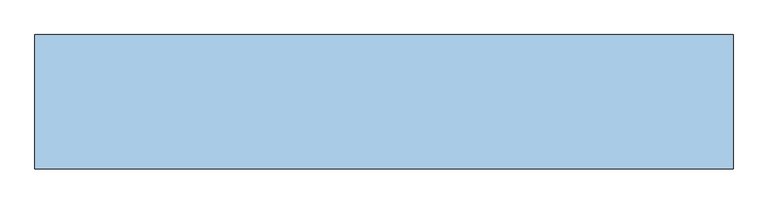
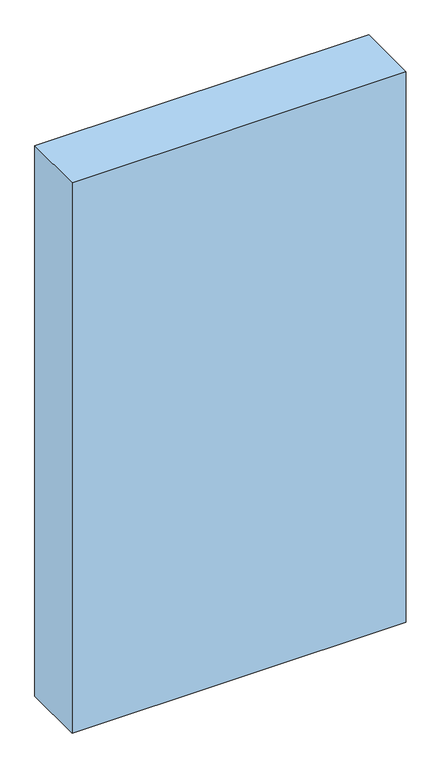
"""IFC4 building model written with IfcOpenShell, lengths in millimetres: window geometry, Dr_Проем-Четверти_об модель : ОК."""

from ifc_helpers import new_model, si_unit, frame, origin, place, context, project, spatial, polyline, outline, extrude, source, transform, mapped, element, save


def window_b03c5447(model_context):
    return source(origin(), model_context, "Body", "SweptSolid", [
        extrude(outline(polyline([(655.0, -100.0), (-385.0, -100.0), (-385.0, 100.0), (655.0, 100.0), (655.0, -100.0)])), frame((0.0, 0.0, -70.0), z_axis=(0.0, 0.0, 1.0), x_axis=(1.0, 0.0, 0.0)), (0.0, 0.0, 1.0), 1810.0),
    ])


if __name__ == "__main__":
    model = new_model("IFC4")
    model_context = context("Model", 3, world=origin())
    ifc_project = project(units=[si_unit("LENGTHUNIT", "METRE", prefix="MILLI")], contexts=[model_context])
    site = spatial("IfcSite", under=ifc_project)
    building = spatial("IfcBuilding", under=site)
    placement = place(None, origin())
    window_shape = window_b03c5447(model_context)
    element("IfcWindow", 1, ObjectType="Dr_Проем-Четверти_об модель : ОК", at=placement, inside=building, context=model_context, shape_type="MappedRepresentation", body=[
        mapped(window_shape, transform((0.0, 0.0, 0.0), x_axis=(1.0, 0.0, 0.0), y_axis=(0.0, 1.0, 0.0), z_axis=(0.0, 0.0, 1.0))),
    ])
    save(model, "model.ifc")
